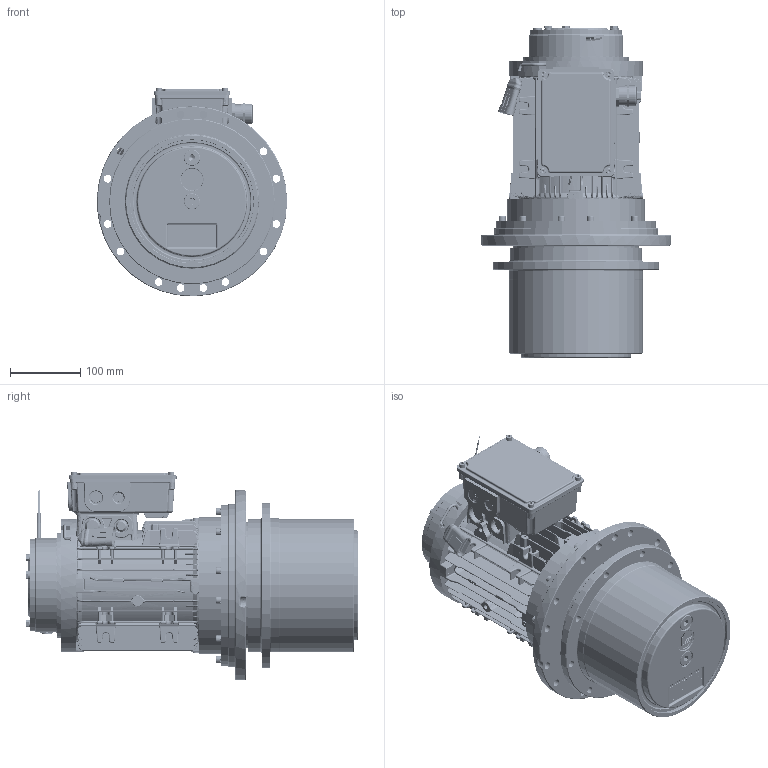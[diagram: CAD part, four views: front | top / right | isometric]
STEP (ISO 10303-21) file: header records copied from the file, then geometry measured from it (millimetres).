
FILE_DESCRIPTION(/* description */ (''),/* implementation_level */ '2;1');
FILE_NAME(/* name */ 'Z:\SITO WEB 2024\Dual Drive\MRH190\MRH190-AC.stp',/* time_stamp */ '2024-03-21T14:41:41+01:00',/* author */ ('cad3'),/* organization */ (''),/* preprocessor_version */ 'ST-DEVELOPER v18.1',/* originating_system */ 'Autodesk Inventor 2022',/* authorisation */ '');
FILE_SCHEMA (('AUTOMOTIVE_DESIGN { 1 0 10303 214 3 1 1 }'));
Products named in the file (1): MRH190-AC
Bounding box: 270 x 471 x 296.6 mm (x, y, z)
Volume: 6352312.4 mm3; surface area: 1665648.5 mm2
Topology: 15 solids, 88 shells, 17028 faces, 44767 edges, 28226 vertices
Faces by surface type: plane 8075, cylinder 4892, bspline 1725, cone 1256, torus 955, sphere 125
Full cylindrical faces by diameter (mm): 0.5 x2, 1.5 x2, 2 x20, 2.5 x16, 3 x8, 3.2 x4, 3.4 x1, 4 x8, 4.134 x4, 4.2 x4, 4.5 x2, 4.917 x11, 5 x34, 5.2 x10, 5.3 x8, 5.4 x1, 5.5 x6, 6 x19, 6.2 x6, 6.3 x3, 6.4 x3, 6.5 x25, 6.8 x4, 8 x10, 8.4 x1, 8.5 x8, 8.88 x3, 8.917 x3, 9 x2, 10 x21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
Entity records: 718700 total; most frequent: CARTESIAN_POINT 287607, ORIENTED_EDGE 89168, DIRECTION 84507, EDGE_CURVE 44584, AXIS2_PLACEMENT_3D 31266, VERTEX_POINT 28243, LINE 21975, VECTOR 21975
